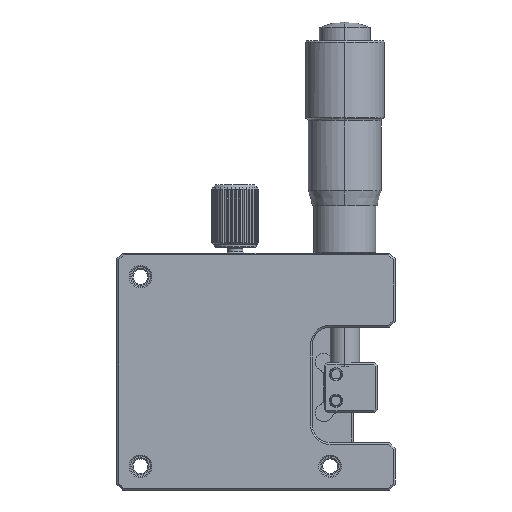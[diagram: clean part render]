
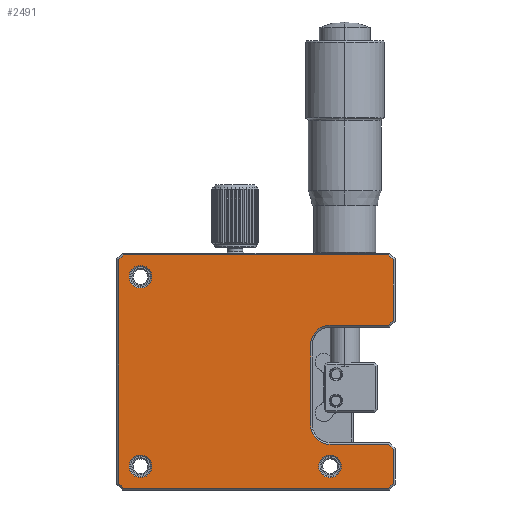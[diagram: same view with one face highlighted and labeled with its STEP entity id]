
A CAD part, front view. The second image highlights one B-rep face of the part: STEP entity #2491.
In plain terms, the highlighted planar face has unit normal (0, -1, 0).
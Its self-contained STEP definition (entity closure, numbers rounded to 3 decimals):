
#320=DIRECTION('',(-0.707,0.,-0.707));
#321=VECTOR('',#320,1.166);
#322=CARTESIAN_POINT('',(26.7,-13.5,8.624));
#323=LINE('',#322,#321);
#324=DIRECTION('',(-1.,0.,0.));
#325=VECTOR('',#324,9.876);
#326=CARTESIAN_POINT('',(25.876,-13.5,7.8));
#327=LINE('',#326,#325);
#328=CARTESIAN_POINT('',(16.,-13.5,4.5));
#329=DIRECTION('',(0.,-1.,0.));
#330=DIRECTION('',(0.,0.,1.));
#331=AXIS2_PLACEMENT_3D('',#328,#329,#330);
#333=DIRECTION('',(0.,0.,-1.));
#334=VECTOR('',#333,13.5);
#335=CARTESIAN_POINT('',(12.7,-13.5,4.5));
#336=LINE('',#335,#334);
#337=CARTESIAN_POINT('',(16.,-13.5,-9.));
#338=DIRECTION('',(0.,-1.,0.));
#339=DIRECTION('',(-1.,0.,0.));
#340=AXIS2_PLACEMENT_3D('',#337,#338,#339);
#342=DIRECTION('',(1.,0.,0.));
#343=VECTOR('',#342,9.876);
#344=CARTESIAN_POINT('',(16.,-13.5,-12.3));
#345=LINE('',#344,#343);
#346=DIRECTION('',(0.707,0.,-0.707));
#347=VECTOR('',#346,1.166);
#348=CARTESIAN_POINT('',(25.876,-13.5,-12.3));
#349=LINE('',#348,#347);
#350=DIRECTION('',(0.,0.,-1.));
#351=VECTOR('',#350,5.751);
#352=CARTESIAN_POINT('',(26.7,-13.5,-13.124));
#353=LINE('',#352,#351);
#354=DIRECTION('',(-0.707,0.,-0.707));
#355=VECTOR('',#354,1.166);
#356=CARTESIAN_POINT('',(26.7,-13.5,-18.876));
#357=LINE('',#356,#355);
#358=DIRECTION('',(-1.,0.,0.));
#359=VECTOR('',#358,44.751);
#360=CARTESIAN_POINT('',(25.876,-13.5,-19.7));
#361=LINE('',#360,#359);
#362=DIRECTION('',(-0.707,0.,0.707));
#363=VECTOR('',#362,1.166);
#364=CARTESIAN_POINT('',(-18.876,-13.5,-19.7));
#365=LINE('',#364,#363);
#366=DIRECTION('',(0.,0.,1.));
#367=VECTOR('',#366,37.751);
#368=CARTESIAN_POINT('',(-19.7,-13.5,-18.876));
#369=LINE('',#368,#367);
#370=DIRECTION('',(0.707,0.,0.707));
#371=VECTOR('',#370,1.166);
#372=CARTESIAN_POINT('',(-19.7,-13.5,18.876));
#373=LINE('',#372,#371);
#374=DIRECTION('',(1.,0.,0.));
#375=VECTOR('',#374,44.751);
#376=CARTESIAN_POINT('',(-18.876,-13.5,19.7));
#377=LINE('',#376,#375);
#378=DIRECTION('',(0.707,0.,-0.707));
#379=VECTOR('',#378,1.166);
#380=CARTESIAN_POINT('',(25.876,-13.5,19.7));
#381=LINE('',#380,#379);
#382=DIRECTION('',(0.,0.,-1.));
#383=VECTOR('',#382,10.251);
#384=CARTESIAN_POINT('',(26.7,-13.5,18.876));
#385=LINE('',#384,#383);
#386=CARTESIAN_POINT('',(16.,-13.5,-16.));
#387=DIRECTION('',(0.,-1.,0.));
#388=DIRECTION('',(1.,0.,0.));
#389=AXIS2_PLACEMENT_3D('',#386,#387,#388);
#391=CARTESIAN_POINT('',(16.,-13.5,-16.));
#392=DIRECTION('',(0.,-1.,0.));
#393=DIRECTION('',(0.,0.,1.));
#394=AXIS2_PLACEMENT_3D('',#391,#392,#393);
#396=CARTESIAN_POINT('',(16.,-13.5,-16.));
#397=DIRECTION('',(0.,-1.,0.));
#398=DIRECTION('',(-1.,0.,0.));
#399=AXIS2_PLACEMENT_3D('',#396,#397,#398);
#401=CARTESIAN_POINT('',(16.,-13.5,-16.));
#402=DIRECTION('',(0.,-1.,0.));
#403=DIRECTION('',(0.,0.,-1.));
#404=AXIS2_PLACEMENT_3D('',#401,#402,#403);
#406=CARTESIAN_POINT('',(-16.,-13.5,-16.));
#407=DIRECTION('',(0.,-1.,0.));
#408=DIRECTION('',(-1.,0.,0.));
#409=AXIS2_PLACEMENT_3D('',#406,#407,#408);
#411=CARTESIAN_POINT('',(-16.,-13.5,-16.));
#412=DIRECTION('',(0.,-1.,0.));
#413=DIRECTION('',(0.,0.,-1.));
#414=AXIS2_PLACEMENT_3D('',#411,#412,#413);
#416=CARTESIAN_POINT('',(-16.,-13.5,-16.));
#417=DIRECTION('',(0.,-1.,0.));
#418=DIRECTION('',(1.,0.,0.));
#419=AXIS2_PLACEMENT_3D('',#416,#417,#418);
#421=CARTESIAN_POINT('',(-16.,-13.5,-16.));
#422=DIRECTION('',(0.,-1.,0.));
#423=DIRECTION('',(0.,0.,1.));
#424=AXIS2_PLACEMENT_3D('',#421,#422,#423);
#426=CARTESIAN_POINT('',(-16.,-13.5,16.));
#427=DIRECTION('',(0.,-1.,0.));
#428=DIRECTION('',(1.,0.,0.));
#429=AXIS2_PLACEMENT_3D('',#426,#427,#428);
#431=CARTESIAN_POINT('',(-16.,-13.5,16.));
#432=DIRECTION('',(0.,-1.,0.));
#433=DIRECTION('',(0.,0.,1.));
#434=AXIS2_PLACEMENT_3D('',#431,#432,#433);
#436=CARTESIAN_POINT('',(-16.,-13.5,16.));
#437=DIRECTION('',(0.,-1.,0.));
#438=DIRECTION('',(-1.,0.,0.));
#439=AXIS2_PLACEMENT_3D('',#436,#437,#438);
#441=CARTESIAN_POINT('',(-16.,-13.5,16.));
#442=DIRECTION('',(0.,-1.,0.));
#443=DIRECTION('',(0.,0.,-1.));
#444=AXIS2_PLACEMENT_3D('',#441,#442,#443);
#1803=CARTESIAN_POINT('',(12.7,-13.5,4.5));
#1804=CARTESIAN_POINT('',(12.7,-13.5,
-9.));
#1805=VERTEX_POINT('',#1803);
#1806=VERTEX_POINT('',#1804);
#1807=CARTESIAN_POINT('',(26.7,-13.5,8.624));
#1808=CARTESIAN_POINT('',(25.876,-13.5,7.8));
#1809=VERTEX_POINT('',#1807);
#1810=VERTEX_POINT('',#1808);
#1811=CARTESIAN_POINT('',(16.,-13.5,7.8));
#1812=VERTEX_POINT('',#1811);
#1813=CARTESIAN_POINT('',(16.,-13.5,-12.3));
#1814=VERTEX_POINT('',#1813);
#1815=CARTESIAN_POINT('',(25.876,-13.5,-12.3));
#1816=VERTEX_POINT('',#1815);
#1817=CARTESIAN_POINT('',(26.7,-13.5,-13.124));
#1818=VERTEX_POINT('',#1817);
#1819=CARTESIAN_POINT('',(26.7,-13.5,-18.876));
#1820=VERTEX_POINT('',#1819);
#1821=CARTESIAN_POINT('',(25.876,-13.5,-19.7));
#1822=VERTEX_POINT('',#1821);
#1823=CARTESIAN_POINT('',(-18.876,-13.5,-19.7));
#1824=VERTEX_POINT('',#1823);
#1825=CARTESIAN_POINT('',(-19.7,-13.5,-18.876));
#1826=VERTEX_POINT('',#1825);
#1827=CARTESIAN_POINT('',(-19.7,-13.5,18.876));
#1828=VERTEX_POINT('',#1827);
#1829=CARTESIAN_POINT('',(-18.876,-13.5,19.7));
#1830=VERTEX_POINT('',#1829);
#1831=CARTESIAN_POINT('',(25.876,-13.5,19.7));
#1832=VERTEX_POINT('',#1831);
#1833=CARTESIAN_POINT('',(26.7,-13.5,18.876));
#1834=VERTEX_POINT('',#1833);
#1835=CARTESIAN_POINT('',(16.,-13.5,-14.1));
#1836=CARTESIAN_POINT('',(14.1,-13.5,-16.));
#1837=VERTEX_POINT('',#1835);
#1838=VERTEX_POINT('',#1836);
#1839=CARTESIAN_POINT('',(17.9,-13.5,-16.));
#1840=VERTEX_POINT('',#1839);
#1841=CARTESIAN_POINT('',(16.,-13.5,-17.9));
#1842=VERTEX_POINT('',#1841);
#1843=CARTESIAN_POINT('',(-16.,-13.5,-17.9));
#1844=CARTESIAN_POINT('',(-14.1,-13.5,-16.));
#1845=VERTEX_POINT('',#1843);
#1846=VERTEX_POINT('',#1844);
#1847=CARTESIAN_POINT('',(-17.9,-13.5,-16.));
#1848=VERTEX_POINT('',#1847);
#1849=CARTESIAN_POINT('',(-16.,-13.5,-14.1));
#1850=VERTEX_POINT('',#1849);
#1851=CARTESIAN_POINT('',(-16.,-13.5,17.9));
#1852=CARTESIAN_POINT('',(-17.9,-13.5,16.));
#1853=VERTEX_POINT('',#1851);
#1854=VERTEX_POINT('',#1852);
#1855=CARTESIAN_POINT('',(-14.1,-13.5,16.));
#1856=VERTEX_POINT('',#1855);
#1857=CARTESIAN_POINT('',(-16.,-13.5,14.1));
#1858=VERTEX_POINT('',#1857);
#2423=CARTESIAN_POINT('',(0.,-13.5,0.));
#2424=DIRECTION('',(0.,1.,0.));
#2425=DIRECTION('',(1.,0.,0.));
#2426=AXIS2_PLACEMENT_3D('',#2423,#2424,#2425);
#2427=PLANE('',#2426);
#2429=ORIENTED_EDGE('',*,*,#2428,.T.);
#2431=ORIENTED_EDGE('',*,*,#2430,.T.);
#2433=ORIENTED_EDGE('',*,*,#2432,.T.);
#2434=ORIENTED_EDGE('',*,*,#2413,.T.);
#2436=ORIENTED_EDGE('',*,*,#2435,.T.);
#2438=ORIENTED_EDGE('',*,*,#2437,.T.);
#2440=ORIENTED_EDGE('',*,*,#2439,.T.);
#2442=ORIENTED_EDGE('',*,*,#2441,.T.);
#2444=ORIENTED_EDGE('',*,*,#2443,.T.);
#2446=ORIENTED_EDGE('',*,*,#2445,.T.);
#2448=ORIENTED_EDGE('',*,*,#2447,.T.);
#2450=ORIENTED_EDGE('',*,*,#2449,.T.);
#2452=ORIENTED_EDGE('',*,*,#2451,.T.);
#2454=ORIENTED_EDGE('',*,*,#2453,.T.);
#2456=ORIENTED_EDGE('',*,*,#2455,.T.);
#2458=ORIENTED_EDGE('',*,*,#2457,.T.);
#2459=EDGE_LOOP('',(#2429,#2431,#2433,#2434,#2436,#2438,#2440,#2442,#2444,#2446,
#2448,#2450,#2452,#2454,#2456,#2458));
#2460=FACE_OUTER_BOUND('',#2459,.F.);
#2462=ORIENTED_EDGE('',*,*,#2461,.T.);
#2464=ORIENTED_EDGE('',*,*,#2463,.T.);
#2466=ORIENTED_EDGE('',*,*,#2465,.T.);
#2468=ORIENTED_EDGE('',*,*,#2467,.T.);
#2469=EDGE_LOOP('',(#2462,#2464,#2466,#2468));
#2470=FACE_BOUND('',#2469,.F.);
#2472=ORIENTED_EDGE('',*,*,#2471,.T.);
#2474=ORIENTED_EDGE('',*,*,#2473,.T.);
#2476=ORIENTED_EDGE('',*,*,#2475,.T.);
#2478=ORIENTED_EDGE('',*,*,#2477,.T.);
#2479=EDGE_LOOP('',(#2472,#2474,#2476,#2478));
#2480=FACE_BOUND('',#2479,.F.);
#2482=ORIENTED_EDGE('',*,*,#2481,.T.);
#2484=ORIENTED_EDGE('',*,*,#2483,.T.);
#2486=ORIENTED_EDGE('',*,*,#2485,.T.);
#2488=ORIENTED_EDGE('',*,*,#2487,.T.);
#2489=EDGE_LOOP('',(#2482,#2484,#2486,#2488));
#2490=FACE_BOUND('',#2489,.F.);
#2491=ADVANCED_FACE('',(#2460,#2470,#2480,#2490),#2427,.F.);
#332=CIRCLE('',#331,3.3);
#341=CIRCLE('',#340,3.3);
#390=CIRCLE('',#389,1.9);
#395=CIRCLE('',#394,1.9);
#400=CIRCLE('',#399,1.9);
#405=CIRCLE('',#404,1.9);
#410=CIRCLE('',#409,1.9);
#415=CIRCLE('',#414,1.9);
#420=CIRCLE('',#419,1.9);
#425=CIRCLE('',#424,1.9);
#430=CIRCLE('',#429,1.9);
#435=CIRCLE('',#434,1.9);
#440=CIRCLE('',#439,1.9);
#445=CIRCLE('',#444,1.9);
#2413=EDGE_CURVE('',#1805,#1806,#336,.T.);
#2428=EDGE_CURVE('',#1809,#1810,#323,.T.);
#2430=EDGE_CURVE('',#1810,#1812,#327,.T.);
#2432=EDGE_CURVE('',#1812,#1805,#332,.T.);
#2435=EDGE_CURVE('',#1806,#1814,#341,.T.);
#2437=EDGE_CURVE('',#1814,#1816,#345,.T.);
#2439=EDGE_CURVE('',#1816,#1818,#349,.T.);
#2441=EDGE_CURVE('',#1818,#1820,#353,.T.);
#2443=EDGE_CURVE('',#1820,#1822,#357,.T.);
#2445=EDGE_CURVE('',#1822,#1824,#361,.T.);
#2447=EDGE_CURVE('',#1824,#1826,#365,.T.);
#2449=EDGE_CURVE('',#1826,#1828,#369,.T.);
#2451=EDGE_CURVE('',#1828,#1830,#373,.T.);
#2453=EDGE_CURVE('',#1830,#1832,#377,.T.);
#2455=EDGE_CURVE('',#1832,#1834,#381,.T.);
#2457=EDGE_CURVE('',#1834,#1809,#385,.T.);
#2461=EDGE_CURVE('',#1840,#1837,#390,.T.);
#2463=EDGE_CURVE('',#1837,#1838,#395,.T.);
#2465=EDGE_CURVE('',#1838,#1842,#400,.T.);
#2467=EDGE_CURVE('',#1842,#1840,#405,.T.);
#2471=EDGE_CURVE('',#1848,#1845,#410,.T.);
#2473=EDGE_CURVE('',#1845,#1846,#415,.T.);
#2475=EDGE_CURVE('',#1846,#1850,#420,.T.);
#2477=EDGE_CURVE('',#1850,#1848,#425,.T.);
#2481=EDGE_CURVE('',#1856,#1853,#430,.T.);
#2483=EDGE_CURVE('',#1853,#1854,#435,.T.);
#2485=EDGE_CURVE('',#1854,#1858,#440,.T.);
#2487=EDGE_CURVE('',#1858,#1856,#445,.T.);
